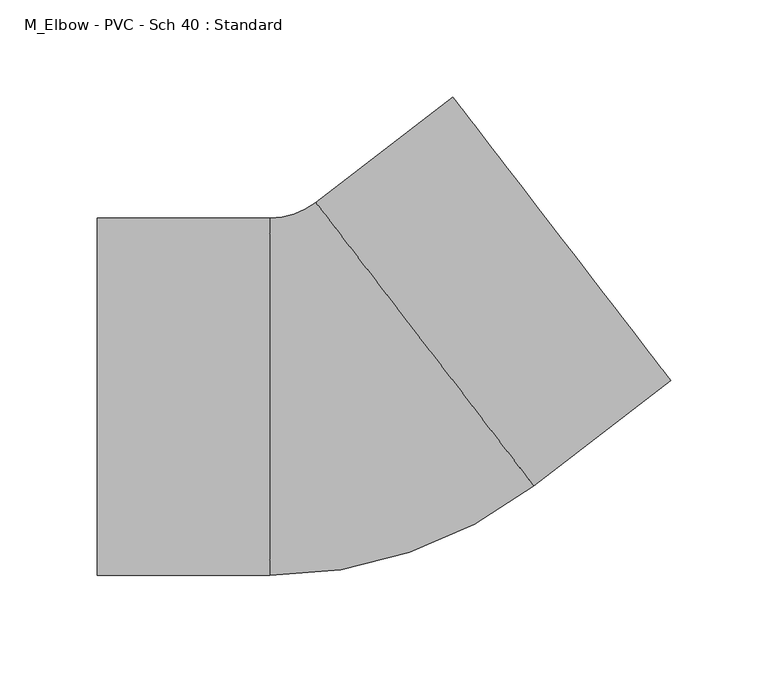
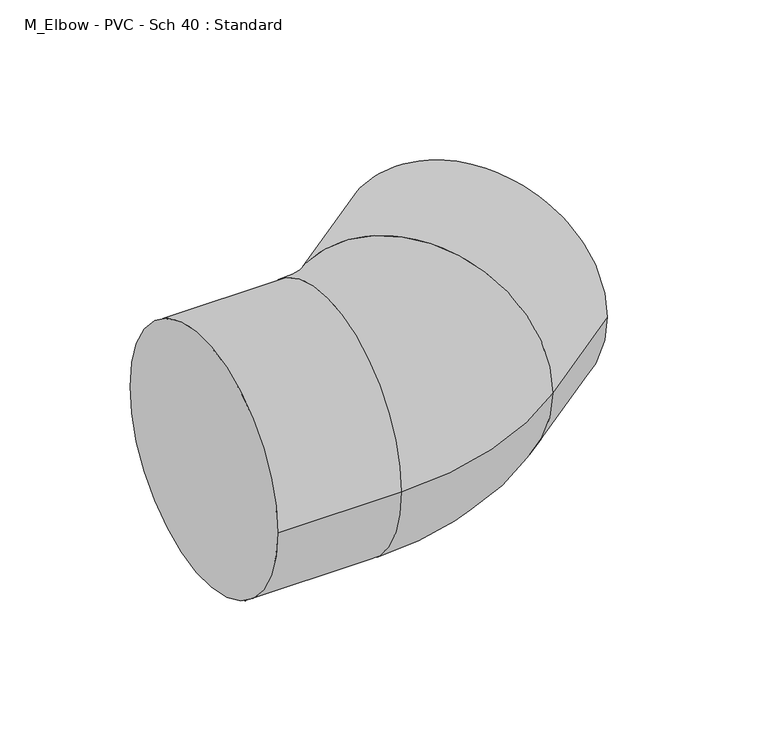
"""IFC4 building model written with IfcOpenShell, lengths in millimetres: pipe fitting geometry, M_Elbow - PVC - Sch 40 : Standard."""

from ifc_helpers import new_model, si_unit, point, frame, origin, place, context, project, spatial, circle_curve, ellipse_curve, trimmed, source, transform, mapped, element, save
from ifc_brep_helpers import plane_surface, cylinder_surface, revolved_surface, advanced_brep


def m_elbow_pvc_sch_40_standard_30eb8c42(model_context):
    return source(origin(), model_context, "Body", "AdvancedBrep", [
        advanced_brep(
        [(-133.35, -92.075, 0.0), (-133.35, 92.075, 0.0), (-44.45, -92.075, 0.0), (-44.45, 92.075, 0.0), (-20.8933516, 100.0853435, 0.0), (91.3650055, -45.8916539, 0.0), (161.8366594, 8.3020358, 0.0), (49.5783023, 154.2790331, 0.0)],
        [
            (0, 1, circle_curve(frame((-133.35, 0.0, 0.0), z_axis=(-1.0, 0.0, 0.0), x_axis=(0.0, 1.0, 0.0)), 92.075)),
            (1, 0, circle_curve(frame((-133.35, 0.0, 0.0), z_axis=(-1.0, 0.0, 0.0), x_axis=(0.0, 1.0, 0.0)), 92.075)),
            (0, 2),
            (2, 3, circle_curve(frame((-44.45, 0.0, 0.0), z_axis=(-1.0, 0.0, 0.0), x_axis=(0.0, 1.0, 0.0)), 92.075)),
            (3, 1),
            (3, 2, circle_curve(frame((-44.45, 0.0, 0.0), z_axis=(-1.0, 0.0, 0.0), x_axis=(0.0, 1.0, 0.0)), 92.075)),
            (4, 3, circle_curve(frame((-44.45, 130.7176179, 0.0), z_axis=(0.0, 0.0, -1.0), x_axis=(0.0, -1.0, 0.0)), 38.6426179)),
            (2, 5, circle_curve(frame((-44.45, 130.7176179, 0.0), z_axis=(0.0, 0.0, 1.0), x_axis=(0.0, -1.0, 0.0)), 222.7926179)),
            (5, 4, circle_curve(frame((35.2358269, 27.0968448, 0.0), z_axis=(-0.7927070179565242, -0.6096028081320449, 0.0), x_axis=(-0.6096028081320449, 0.7927070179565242, 0.0)), 92.075)),
            (4, 5, circle_curve(frame((35.2358269, 27.0968448, 0.0), z_axis=(-0.7927070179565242, -0.6096028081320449, 0.0), x_axis=(-0.6096028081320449, 0.7927070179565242, 0.0)), 92.075)),
            (6, 7, circle_curve(frame((105.7074808, 81.2905345, 0.0), z_axis=(0.7927070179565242, 0.609602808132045, 0.0), x_axis=(-0.609602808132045, 0.7927070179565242, 0.0)), 92.075)),
            (7, 6, circle_curve(frame((105.7074808, 81.2905345, 0.0), z_axis=(0.7927070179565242, 0.609602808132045, 0.0), x_axis=(-0.609602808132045, 0.7927070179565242, 0.0)), 92.075)),
            (5, 6),
            (7, 4),
        ],
        [
            plane_surface(frame((-133.35, 0.0, 0.0), z_axis=(-1.0, 0.0, 0.0), x_axis=(0.0, 0.0, 1.0))),
            cylinder_surface(frame((-133.35, 0.0, 0.0), z_axis=(-1.0, 0.0, 0.0), x_axis=(0.0, 1.0, 0.0)), 92.075),
            revolved_surface(trimmed(ellipse_curve(frame((-44.45, 0.0, 0.0), z_axis=(-1.0, 0.0, 0.0), x_axis=(0.0, 1.0, 0.0)), 92.075, 92.075), [point((-44.45, -92.075, 0.0))], [point((-44.45, 92.075, 0.0))], True, "CARTESIAN"), (-44.45, 130.7176179, 0.0), (0.0, 0.0, 1.0)),
            revolved_surface(trimmed(ellipse_curve(frame((-44.45, 0.0, 0.0), z_axis=(-1.0, 0.0, 0.0), x_axis=(0.0, 1.0, 0.0)), 92.075, 92.075), [point((-44.45, 92.075, 0.0))], [point((-44.45, -92.075, 0.0))], True, "CARTESIAN"), (-44.45, 130.7176179, 0.0), (0.0, 0.0, 1.0)),
            plane_surface(frame((105.7074808, 81.2905345, 0.0), z_axis=(0.7927070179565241, 0.6096028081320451, 0.0), x_axis=(0.0, 0.0, 1.0))),
            cylinder_surface(frame((35.2358269, 27.0968448, 0.0), z_axis=(-0.7927070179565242, -0.609602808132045, 0.0), x_axis=(-0.609602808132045, 0.7927070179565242, 0.0)), 92.075),
        ],
        [
            (0, [[1, 2]]),
            (1, [[-1, 3, 4, 5]]),
            (1, [[-2, -5, 6, -3]]),
            (2, [[7, -4, 8, 9]]),
            (3, [[-8, -6, -7, 10]]),
            (4, [[11, 12]]),
            (5, [[-9, 13, -12, 14]]),
            (5, [[-10, -14, -11, -13]]),
        ],
    ),
    ])


if __name__ == "__main__":
    model = new_model("IFC4")
    model_context = context("Model", 3, world=origin())
    ifc_project = project(units=[si_unit("LENGTHUNIT", "METRE", prefix="MILLI")], contexts=[model_context])
    site = spatial("IfcSite", under=ifc_project)
    building = spatial("IfcBuilding", under=site)
    placement = place(None, origin())
    m_elbow_pvc_sch_40_standard_shape = m_elbow_pvc_sch_40_standard_30eb8c42(model_context)
    element("IfcPipeFitting", 1, ObjectType="M_Elbow - PVC - Sch 40 : Standard", at=placement, inside=building, context=model_context, shape_type="MappedRepresentation", body=[
        mapped(m_elbow_pvc_sch_40_standard_shape, transform((0.0, 0.0, 0.0), x_axis=(1.0, 0.0, 0.0), y_axis=(0.0, 1.0, 0.0), z_axis=(0.0, 0.0, 1.0))),
    ])
    save(model, "model.ifc")
